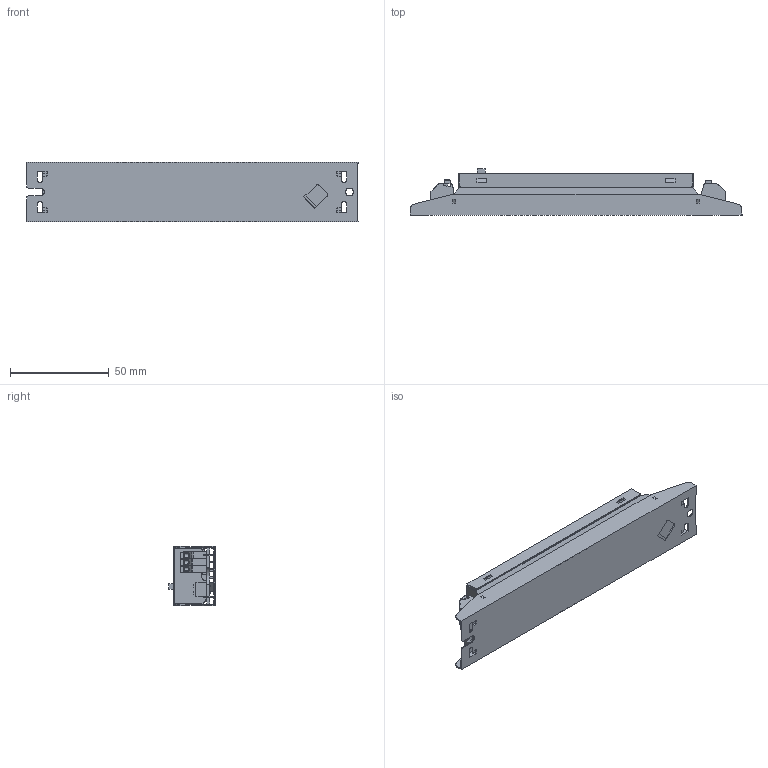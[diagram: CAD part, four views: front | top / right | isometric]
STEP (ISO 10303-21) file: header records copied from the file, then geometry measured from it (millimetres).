
FILE_DESCRIPTION(/* description */ (''),/* implementation_level */ '2;1');
FILE_NAME(/* name */ 'C:\Users\310079203\OneDrive - Signify\work\project\Y2024\ODM Projects\Meaf projets\Xi Linear non-iso DS CCT\tpd\929003914380 Sh-10_20241122 .stp',/* time_stamp */ '2024-11-22T16:42:58+08:00',/* author */ ('310079203'),/* organization */ (''),/* preprocessor_version */ 'ST-DEVELOPER v18.1',/* originating_system */ 'Autodesk Inventor 2022',/* authorisation */ '');
FILE_SCHEMA (('AUTOMOTIVE_DESIGN { 1 0 10303 214 3 1 1 }'));
Length unit declared in the file: inch
Products named in the file (1): 929003914380 Sh-10_20241122
Bounding box: 168 x 23.5 x 30.2 mm (x, y, z)
Volume: 21291.9 mm3; surface area: 56919.6 mm2
Topology: 1 solids, 1 shells, 914 faces, 2527 edges, 1606 vertices
Faces by surface type: plane 673, cylinder 199, torus 36, bspline 6
Full cylindrical faces by diameter (mm): 3 x6, 4 x1
Entity records: 30382 total; most frequent: CARTESIAN_POINT 5738, ORIENTED_EDGE 5054, DIRECTION 4783, EDGE_CURVE 2527, LINE 2053, VECTOR 2053, VERTEX_POINT 1606, AXIS2_PLACEMENT_3D 1365
